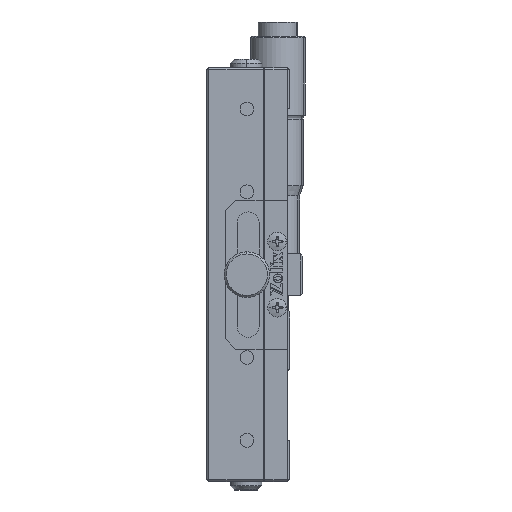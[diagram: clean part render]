
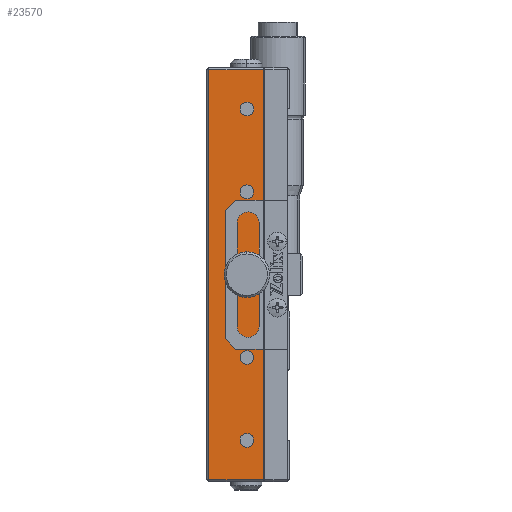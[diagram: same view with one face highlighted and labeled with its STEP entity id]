
A CAD part, left-side view. The second image highlights one B-rep face of the part: STEP entity #23570.
In plain terms, the highlighted planar face has unit normal (-1, 0, 0).
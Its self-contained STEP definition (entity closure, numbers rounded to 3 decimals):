
#94 = ORIENTED_EDGE ( 'NONE', *, *, #13746, .F. ) ;
#647 = VERTEX_POINT ( 'NONE', #4240 ) ;
#743 = VERTEX_POINT ( 'NONE', #18961 ) ;
#1072 = DIRECTION ( 'NONE',  ( -1., 0., 0. ) ) ;
#1204 = DIRECTION ( 'NONE',  ( -1., 0., 0. ) ) ;
#1540 = AXIS2_PLACEMENT_3D ( 'NONE', #27566, #25163, #13339 ) ;
#1714 = DIRECTION ( 'NONE',  ( 0., 0., -1. ) ) ;
#2119 = AXIS2_PLACEMENT_3D ( 'NONE', #8918, #25522, #6233 ) ;
#2505 = CARTESIAN_POINT ( 'NONE',  ( -49.938, -4.325, 62.5 ) ) ;
#3044 = DIRECTION ( 'NONE',  ( -1., 0., 0. ) ) ;
#3146 = CARTESIAN_POINT ( 'NONE',  ( -49.938, -0.325, 72.5 ) ) ;
#3322 = DIRECTION ( 'NONE',  ( -1., 0., 0. ) ) ;
#3518 = EDGE_CURVE ( 'NONE', #5951, #26994, #14648, .T. ) ;
#3716 = EDGE_CURVE ( 'NONE', #21390, #11846, #18356, .T. ) ;
#4047 = AXIS2_PLACEMENT_3D ( 'NONE', #15414, #1204, #17804 ) ;
#4208 = ORIENTED_EDGE ( 'NONE', *, *, #15320, .T. ) ;
#4226 = CARTESIAN_POINT ( 'NONE',  ( -49.938, -4.325, 162. ) ) ;
#4240 = CARTESIAN_POINT ( 'NONE',  ( -49.938, -0.325, 74.15 ) ) ;
#4382 = EDGE_LOOP ( 'NONE', ( #10058, #11000 ) ) ;
#4452 = EDGE_LOOP ( 'NONE', ( #10861, #94 ) ) ;
#4584 = VERTEX_POINT ( 'NONE', #21495 ) ;
#4670 = VERTEX_POINT ( 'NONE', #12791 ) ;
#5013 = VECTOR ( 'NONE', #18914, 1000. ) ;
#5111 = FACE_BOUND ( 'NONE', #4382, .T. ) ;
#5518 = EDGE_CURVE ( 'NONE', #25921, #24897, #20075, .T. ) ;
#5736 = CARTESIAN_POINT ( 'NONE',  ( -49.938, -0.325, 150.85 ) ) ;
#5782 = CIRCLE ( 'NONE', #1540, 1.65 ) ;
#5855 = DIRECTION ( 'NONE',  ( 0., 0., 1. ) ) ;
#5951 = VERTEX_POINT ( 'NONE', #17925 ) ;
#6194 = CARTESIAN_POINT ( 'NONE',  ( -49.938, -0.325, 94.15 ) ) ;
#6233 = DIRECTION ( 'NONE',  ( 0., 0., 1. ) ) ;
#7137 = DIRECTION ( 'NONE',  ( -1., 0., 0. ) ) ;
#7676 = AXIS2_PLACEMENT_3D ( 'NONE', #15668, #8718, #23120 ) ;
#7855 = CARTESIAN_POINT ( 'NONE',  ( -49.938, -0.325, 132.5 ) ) ;
#7972 = CARTESIAN_POINT ( 'NONE',  ( -49.938, 8.875, 162. ) ) ;
#7983 = EDGE_CURVE ( 'NONE', #11670, #18331, #9124, .T. ) ;
#8008 = ORIENTED_EDGE ( 'NONE', *, *, #16524, .T. ) ;
#8069 = ORIENTED_EDGE ( 'NONE', *, *, #26702, .T. ) ;
#8144 = EDGE_CURVE ( 'NONE', #743, #28557, #13580, .T. ) ;
#8234 = ORIENTED_EDGE ( 'NONE', *, *, #15332, .F. ) ;
#8718 = DIRECTION ( 'NONE',  ( -1., 0., 0. ) ) ;
#8834 = EDGE_CURVE ( 'NONE', #24897, #25921, #9827, .T. ) ;
#8918 = CARTESIAN_POINT ( 'NONE',  ( -49.938, -4.325, 62.5 ) ) ;
#8981 = LINE ( 'NONE', #22637, #26443 ) ;
#8993 = CARTESIAN_POINT ( 'NONE',  ( -49.938, -0.325, 154.15 ) ) ;
#9124 = CIRCLE ( 'NONE', #16939, 2.1 ) ;
#9456 = EDGE_LOOP ( 'NONE', ( #27343, #16176 ) ) ;
#9544 = ORIENTED_EDGE ( 'NONE', *, *, #13745, .F. ) ;
#9827 = CIRCLE ( 'NONE', #4047, 1.65 ) ;
#10058 = ORIENTED_EDGE ( 'NONE', *, *, #3716, .F. ) ;
#10282 = FACE_BOUND ( 'NONE', #28632, .T. ) ;
#10720 = DIRECTION ( 'NONE',  ( 0., -1., 0. ) ) ;
#10818 = EDGE_LOOP ( 'NONE', ( #30004, #8069, #8008, #4208 ) ) ;
#10861 = ORIENTED_EDGE ( 'NONE', *, *, #16919, .F. ) ;
#10931 = CARTESIAN_POINT ( 'NONE',  ( -49.938, -0.325, 92.5 ) ) ;
#11000 = ORIENTED_EDGE ( 'NONE', *, *, #22902, .F. ) ;
#11053 = DIRECTION ( 'NONE',  ( 0., 0., 1. ) ) ;
#11670 = VERTEX_POINT ( 'NONE', #14650 ) ;
#11846 = VERTEX_POINT ( 'NONE', #20166 ) ;
#12080 = AXIS2_PLACEMENT_3D ( 'NONE', #13038, #15512, #11053 ) ;
#12163 = EDGE_LOOP ( 'NONE', ( #23986, #9544 ) ) ;
#12791 = CARTESIAN_POINT ( 'NONE',  ( -49.938, 8.875, 63. ) ) ;
#13038 = CARTESIAN_POINT ( 'NONE',  ( -49.938, -0.325, 112.5 ) ) ;
#13339 = DIRECTION ( 'NONE',  ( 0., 0., 1. ) ) ;
#13580 = CIRCLE ( 'NONE', #28663, 1.65 ) ;
#13656 = CARTESIAN_POINT ( 'NONE',  ( -49.938, 8.875, 62.5 ) ) ;
#13745 = EDGE_CURVE ( 'NONE', #18331, #11670, #17648, .T. ) ;
#13746 = EDGE_CURVE ( 'NONE', #4584, #647, #5782, .T. ) ;
#13906 = CIRCLE ( 'NONE', #30774, 1.65 ) ;
#14648 = LINE ( 'NONE', #2505, #5013 ) ;
#14650 = CARTESIAN_POINT ( 'NONE',  ( -49.938, -0.325, 114.6 ) ) ;
#15135 = DIRECTION ( 'NONE',  ( 0., 0., 1. ) ) ;
#15320 = EDGE_CURVE ( 'NONE', #4670, #5951, #8981, .T. ) ;
#15332 = EDGE_CURVE ( 'NONE', #28557, #743, #20146, .T. ) ;
#15414 = CARTESIAN_POINT ( 'NONE',  ( -49.938, -0.325, 152.5 ) ) ;
#15512 = DIRECTION ( 'NONE',  ( -1., 0., 0. ) ) ;
#15668 = CARTESIAN_POINT ( 'NONE',  ( -49.938, -0.325, 152.5 ) ) ;
#16176 = ORIENTED_EDGE ( 'NONE', *, *, #8834, .F. ) ;
#16524 = EDGE_CURVE ( 'NONE', #21681, #4670, #21147, .T. ) ;
#16919 = EDGE_CURVE ( 'NONE', #647, #4584, #28733, .T. ) ;
#16939 = AXIS2_PLACEMENT_3D ( 'NONE', #23335, #7137, #30435 ) ;
#17611 = AXIS2_PLACEMENT_3D ( 'NONE', #26041, #18992, #19199 ) ;
#17648 = CIRCLE ( 'NONE', #12080, 2.1 ) ;
#17804 = DIRECTION ( 'NONE',  ( 0., 0., 1. ) ) ;
#17925 = CARTESIAN_POINT ( 'NONE',  ( -49.938, -4.325, 63. ) ) ;
#18065 = PLANE ( 'NONE',  #2119 ) ;
#18331 = VERTEX_POINT ( 'NONE', #25498 ) ;
#18356 = CIRCLE ( 'NONE', #17611, 1.65 ) ;
#18914 = DIRECTION ( 'NONE',  ( 0., 0., 1. ) ) ;
#18961 = CARTESIAN_POINT ( 'NONE',  ( -49.938, -0.325, 134.15 ) ) ;
#18992 = DIRECTION ( 'NONE',  ( -1., 0., 0. ) ) ;
#19199 = DIRECTION ( 'NONE',  ( 0., 0., 1. ) ) ;
#19662 = DIRECTION ( 'NONE',  ( 0., 0., 1. ) ) ;
#20075 = CIRCLE ( 'NONE', #7676, 1.65 ) ;
#20146 = CIRCLE ( 'NONE', #26397, 1.65 ) ;
#20166 = CARTESIAN_POINT ( 'NONE',  ( -49.938, -0.325, 90.85 ) ) ;
#20863 = ORIENTED_EDGE ( 'NONE', *, *, #8144, .F. ) ;
#21147 = LINE ( 'NONE', #13656, #22632 ) ;
#21228 = VECTOR ( 'NONE', #22875, 1000. ) ;
#21390 = VERTEX_POINT ( 'NONE', #6194 ) ;
#21495 = CARTESIAN_POINT ( 'NONE',  ( -49.938, -0.325, 70.85 ) ) ;
#21681 = VERTEX_POINT ( 'NONE', #7972 ) ;
#21724 = CARTESIAN_POINT ( 'NONE',  ( -49.938, -4.325, 162. ) ) ;
#22323 = CARTESIAN_POINT ( 'NONE',  ( -49.938, -0.325, 130.85 ) ) ;
#22535 = CARTESIAN_POINT ( 'NONE',  ( -49.938, -0.325, 132.5 ) ) ;
#22632 = VECTOR ( 'NONE', #1714, 1000. ) ;
#22637 = CARTESIAN_POINT ( 'NONE',  ( -49.938, -4.325, 63. ) ) ;
#22844 = DIRECTION ( 'NONE',  ( 0., 0., 1. ) ) ;
#22873 = FACE_BOUND ( 'NONE', #4452, .T. ) ;
#22875 = DIRECTION ( 'NONE',  ( 0., 1., 0. ) ) ;
#22902 = EDGE_CURVE ( 'NONE', #11846, #21390, #13906, .T. ) ;
#23050 = DIRECTION ( 'NONE',  ( -1., 0., 0. ) ) ;
#23120 = DIRECTION ( 'NONE',  ( 0., 0., 1. ) ) ;
#23335 = CARTESIAN_POINT ( 'NONE',  ( -49.938, -0.325, 112.5 ) ) ;
#23570 = ADVANCED_FACE ( 'NONE', ( #30365, #25131, #5111, #22873, #29613, #10282 ), #18065, .T. ) ;
#23986 = ORIENTED_EDGE ( 'NONE', *, *, #7983, .F. ) ;
#24897 = VERTEX_POINT ( 'NONE', #5736 ) ;
#25131 = FACE_BOUND ( 'NONE', #12163, .T. ) ;
#25163 = DIRECTION ( 'NONE',  ( -1., 0., 0. ) ) ;
#25320 = LINE ( 'NONE', #4226, #21228 ) ;
#25498 = CARTESIAN_POINT ( 'NONE',  ( -49.938, -0.325, 110.4 ) ) ;
#25522 = DIRECTION ( 'NONE',  ( -1., 0., 0. ) ) ;
#25921 = VERTEX_POINT ( 'NONE', #8993 ) ;
#26041 = CARTESIAN_POINT ( 'NONE',  ( -49.938, -0.325, 92.5 ) ) ;
#26397 = AXIS2_PLACEMENT_3D ( 'NONE', #22535, #1072, #5855 ) ;
#26443 = VECTOR ( 'NONE', #10720, 1000. ) ;
#26702 = EDGE_CURVE ( 'NONE', #26994, #21681, #25320, .T. ) ;
#26994 = VERTEX_POINT ( 'NONE', #21724 ) ;
#27343 = ORIENTED_EDGE ( 'NONE', *, *, #5518, .F. ) ;
#27566 = CARTESIAN_POINT ( 'NONE',  ( -49.938, -0.325, 72.5 ) ) ;
#28034 = AXIS2_PLACEMENT_3D ( 'NONE', #3146, #3044, #19662 ) ;
#28557 = VERTEX_POINT ( 'NONE', #22323 ) ;
#28632 = EDGE_LOOP ( 'NONE', ( #20863, #8234 ) ) ;
#28663 = AXIS2_PLACEMENT_3D ( 'NONE', #7855, #3322, #15135 ) ;
#28733 = CIRCLE ( 'NONE', #28034, 1.65 ) ;
#29613 = FACE_BOUND ( 'NONE', #9456, .T. ) ;
#30004 = ORIENTED_EDGE ( 'NONE', *, *, #3518, .T. ) ;
#30365 = FACE_OUTER_BOUND ( 'NONE', #10818, .T. ) ;
#30435 = DIRECTION ( 'NONE',  ( 0., 0., 1. ) ) ;
#30774 = AXIS2_PLACEMENT_3D ( 'NONE', #10931, #23050, #22844 ) ;
